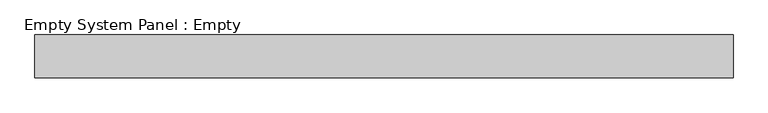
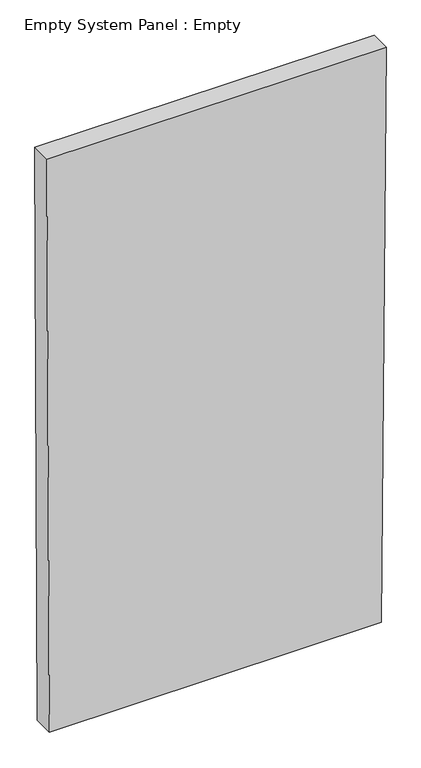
"""IFC4 building model written with IfcOpenShell, lengths in millimetres: plate geometry, Empty System Panel : Empty."""

from ifc_helpers import new_model, si_unit, frame, origin, place, context, project, spatial, polyline, outline, extrude, source, transform, mapped, element, save


def empty_system_panel_empty_7efb6728(model_context):
    return source(origin(), model_context, "Body", "SweptSolid", [
        extrude(outline(polyline([(0.0, -820.0960371), (0.0, 807.988084), (2975.4964836, 831.9510026), (2976.9348851, -831.9510026), (0.0, -820.0960371)])), frame((0.0, -50.8, 0.0), z_axis=(0.0, 1.0, 0.0), x_axis=(0.0, 0.0, 1.0)), (0.0, 0.0, 1.0), 101.6),
    ])


if __name__ == "__main__":
    model = new_model("IFC4")
    model_context = context("Model", 3, world=origin())
    ifc_project = project(units=[si_unit("LENGTHUNIT", "METRE", prefix="MILLI")], contexts=[model_context])
    site = spatial("IfcSite", under=ifc_project)
    building = spatial("IfcBuilding", under=site)
    placement = place(None, origin())
    empty_system_panel_empty_shape = empty_system_panel_empty_7efb6728(model_context)
    element("IfcPlate", 1, ObjectType="Empty System Panel : Empty", at=placement, inside=building, context=model_context, shape_type="MappedRepresentation", body=[
        mapped(empty_system_panel_empty_shape, transform((0.0, 0.0, 0.0), x_axis=(1.0, 0.0, 0.0), y_axis=(0.0, 1.0, 0.0), z_axis=(0.0, 0.0, 1.0))),
    ])
    save(model, "model.ifc")
